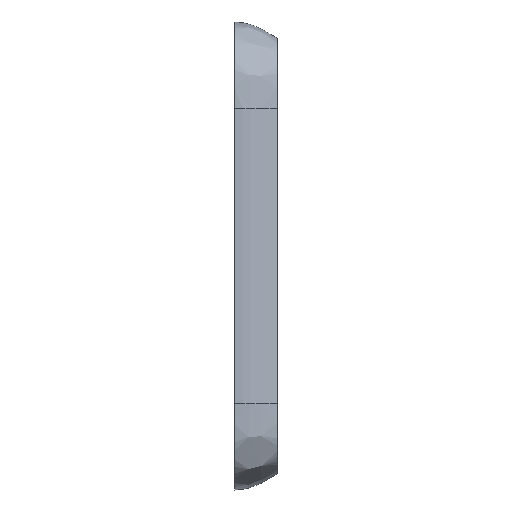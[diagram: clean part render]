
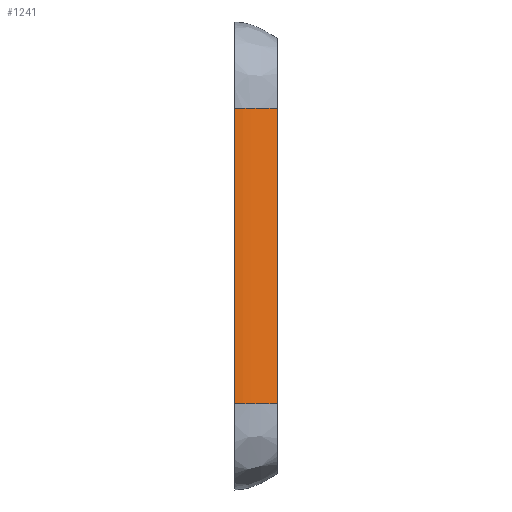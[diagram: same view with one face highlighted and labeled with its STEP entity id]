
A CAD part, front view. The second image highlights one B-rep face of the part: STEP entity #1241.
In plain terms, the highlighted free-form (B-spline) face has degree [4, 1] with [5, 2] control points.
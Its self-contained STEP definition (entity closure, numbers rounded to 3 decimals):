
#35=(
BOUNDED_SURFACE()
B_SPLINE_SURFACE(4,1,((#2828,#2829),(#2830,#2831),(#2832,#2833),(#2834,
#2835),(#2836,#2837)),.UNSPECIFIED.,.F.,.F.,.F.)
B_SPLINE_SURFACE_WITH_KNOTS((5,5),(2,2),(-0.59,0.),(-2.,7.75),
 .UNSPECIFIED.)
GEOMETRIC_REPRESENTATION_ITEM()
RATIONAL_B_SPLINE_SURFACE(((1.,1.),(1.,1.),(1.,1.),(1.,1.),(1.,1.)))
REPRESENTATION_ITEM('')
SURFACE()
);
#88=(
BOUNDED_CURVE()
B_SPLINE_CURVE(4,(#1735,#1736,#1737,#1738,#1739),.UNSPECIFIED.,.F.,.F.)
B_SPLINE_CURVE_WITH_KNOTS((5,5),(-0.59,0.),.UNSPECIFIED.)
CURVE()
GEOMETRIC_REPRESENTATION_ITEM()
RATIONAL_B_SPLINE_CURVE((1.,1.,1.,1.,1.))
REPRESENTATION_ITEM('')
);
#90=(
BOUNDED_CURVE()
B_SPLINE_CURVE(4,(#2427,#2428,#2429,#2430,#2431),.UNSPECIFIED.,.F.,.F.)
B_SPLINE_CURVE_WITH_KNOTS((5,5),(-0.59,0.),.UNSPECIFIED.)
CURVE()
GEOMETRIC_REPRESENTATION_ITEM()
RATIONAL_B_SPLINE_CURVE((1.,1.,1.,1.,1.))
REPRESENTATION_ITEM('')
);
#119=FACE_OUTER_BOUND('',#185,.T.);
#185=EDGE_LOOP('',(#897,#898,#899,#900));
#270=LINE('',#2838,#336);
#271=LINE('',#2839,#337);
#336=VECTOR('',#1400,10.);
#337=VECTOR('',#1401,10.);
#481=VERTEX_POINT('',#1719);
#482=VERTEX_POINT('',#1734);
#516=VERTEX_POINT('',#2411);
#517=VERTEX_POINT('',#2426);
#611=EDGE_CURVE('',#482,#481,#88,.T.);
#656=EDGE_CURVE('',#516,#517,#90,.T.);
#684=EDGE_CURVE('',#516,#482,#270,.T.);
#685=EDGE_CURVE('',#481,#517,#271,.T.);
#897=ORIENTED_EDGE('',*,*,#684,.T.);
#898=ORIENTED_EDGE('',*,*,#611,.T.);
#899=ORIENTED_EDGE('',*,*,#685,.T.);
#900=ORIENTED_EDGE('',*,*,#656,.F.);
#1241=ADVANCED_FACE('',(#119),#35,.F.);
#1400=DIRECTION('',(0.,0.,1.));
#1401=DIRECTION('',(0.,0.,-1.));
#1719=CARTESIAN_POINT('',(-160.,-88.4,16.5));
#1734=CARTESIAN_POINT('',(-148.4,-83.965,16.5));
#1735=CARTESIAN_POINT('Ctrl Pts',(-148.4,-83.965,16.5));
#1736=CARTESIAN_POINT('Ctrl Pts',(-150.667,-85.464,16.5));
#1737=CARTESIAN_POINT('Ctrl Pts',(-153.336,-87.182,16.5));
#1738=CARTESIAN_POINT('Ctrl Pts',(-156.755,-88.4,16.5));
#1739=CARTESIAN_POINT('Ctrl Pts',(-160.,-88.4,16.5));
#2411=CARTESIAN_POINT('',(-148.4,-83.965,-63.5));
#2426=CARTESIAN_POINT('',(-160.,-88.4,-63.5));
#2427=CARTESIAN_POINT('Ctrl Pts',(-148.4,-83.965,-63.5));
#2428=CARTESIAN_POINT('Ctrl Pts',(-150.667,-85.464,-63.5));
#2429=CARTESIAN_POINT('Ctrl Pts',(-153.336,-87.182,-63.5));
#2430=CARTESIAN_POINT('Ctrl Pts',(-156.755,-88.4,-63.5));
#2431=CARTESIAN_POINT('Ctrl Pts',(-160.,-88.4,-63.5));
#2828=CARTESIAN_POINT('Ctrl Pts',(-148.4,-83.965,-63.5));
#2829=CARTESIAN_POINT('Ctrl Pts',(-148.4,-83.965,34.));
#2830=CARTESIAN_POINT('Ctrl Pts',(-150.667,-85.464,-63.5));
#2831=CARTESIAN_POINT('Ctrl Pts',(-150.667,-85.464,34.));
#2832=CARTESIAN_POINT('Ctrl Pts',(-153.336,-87.182,-63.5));
#2833=CARTESIAN_POINT('Ctrl Pts',(-153.336,-87.182,34.));
#2834=CARTESIAN_POINT('Ctrl Pts',(-156.755,-88.4,-63.5));
#2835=CARTESIAN_POINT('Ctrl Pts',(-156.755,-88.4,34.));
#2836=CARTESIAN_POINT('Ctrl Pts',(-160.,-88.4,-63.5));
#2837=CARTESIAN_POINT('Ctrl Pts',(-160.,-88.4,34.));
#2838=CARTESIAN_POINT('',(-148.4,-83.965,-43.5));
#2839=CARTESIAN_POINT('',(-160.,-88.4,-43.5));
